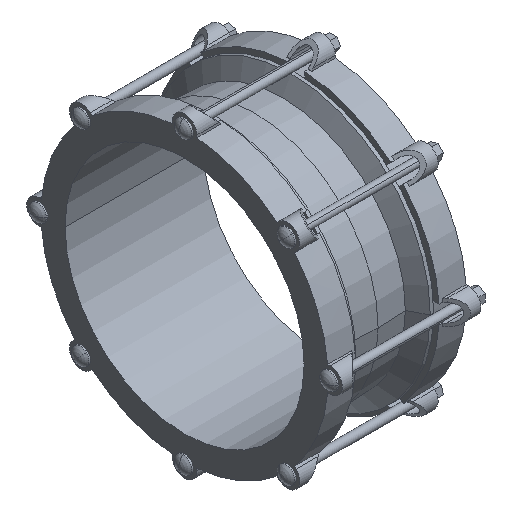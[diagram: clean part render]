
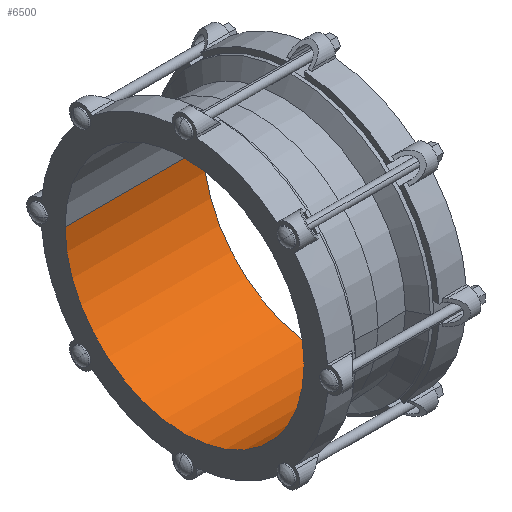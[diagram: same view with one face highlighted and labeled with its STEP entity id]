
A CAD part, isometric view. The second image highlights one B-rep face of the part: STEP entity #6500.
In plain terms, the highlighted cylindrical face has radius 175.25 mm (diameter 350.5 mm), a partial arc.
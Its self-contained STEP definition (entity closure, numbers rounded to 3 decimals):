
#331=DIRECTION('',(1.,0.,0.));
#332=VECTOR('',#331,203.);
#333=CARTESIAN_POINT('',(-101.5,175.25,0.));
#334=LINE('',#333,#332);
#335=DIRECTION('',(1.,0.,0.));
#336=VECTOR('',#335,203.);
#337=CARTESIAN_POINT('',(-101.5,-175.25,0.));
#338=LINE('',#337,#336);
#339=CARTESIAN_POINT('',(-101.5,0.,0.));
#340=DIRECTION('',(-1.,0.,0.));
#341=DIRECTION('',(0.,1.,0.));
#342=AXIS2_PLACEMENT_3D('',#339,#340,#341);
#394=CARTESIAN_POINT('',(101.5,0.,0.));
#395=DIRECTION('',(-1.,0.,0.));
#396=DIRECTION('',(0.,1.,0.));
#397=AXIS2_PLACEMENT_3D('',#394,#395,#396);
#4828=CARTESIAN_POINT('',(-101.5,175.25,0.));
#4829=CARTESIAN_POINT('',(101.5,175.25,0.));
#4830=VERTEX_POINT('',#4828);
#4831=VERTEX_POINT('',#4829);
#4840=CARTESIAN_POINT('',(-101.5,-175.25,0.));
#4841=CARTESIAN_POINT('',(101.5,-175.25,0.));
#4842=VERTEX_POINT('',#4840);
#4843=VERTEX_POINT('',#4841);
#6488=CARTESIAN_POINT('',(-111.65,0.,0.));
#6489=DIRECTION('',(1.,0.,0.));
#6490=DIRECTION('',(0.,-1.,0.));
#6491=AXIS2_PLACEMENT_3D('',#6488,#6489,#6490);
#6492=CYLINDRICAL_SURFACE('',#6491,175.25);
#6493=ORIENTED_EDGE('',*,*,#6478,.T.);
#6495=ORIENTED_EDGE('',*,*,#6494,.T.);
#6496=ORIENTED_EDGE('',*,*,#6481,.F.);
#6497=ORIENTED_EDGE('',*,*,#6185,.F.);
#6498=EDGE_LOOP('',(#6493,#6495,#6496,#6497));
#6499=FACE_OUTER_BOUND('',#6498,.F.);
#6500=ADVANCED_FACE('',(#6499),#6492,.F.);
#343=CIRCLE('',#342,175.25);
#398=CIRCLE('',#397,175.25);
#6185=EDGE_CURVE('',#4830,#4842,#343,.T.);
#6478=EDGE_CURVE('',#4830,#4831,#334,.T.);
#6481=EDGE_CURVE('',#4842,#4843,#338,.T.);
#6494=EDGE_CURVE('',#4831,#4843,#398,.T.);
